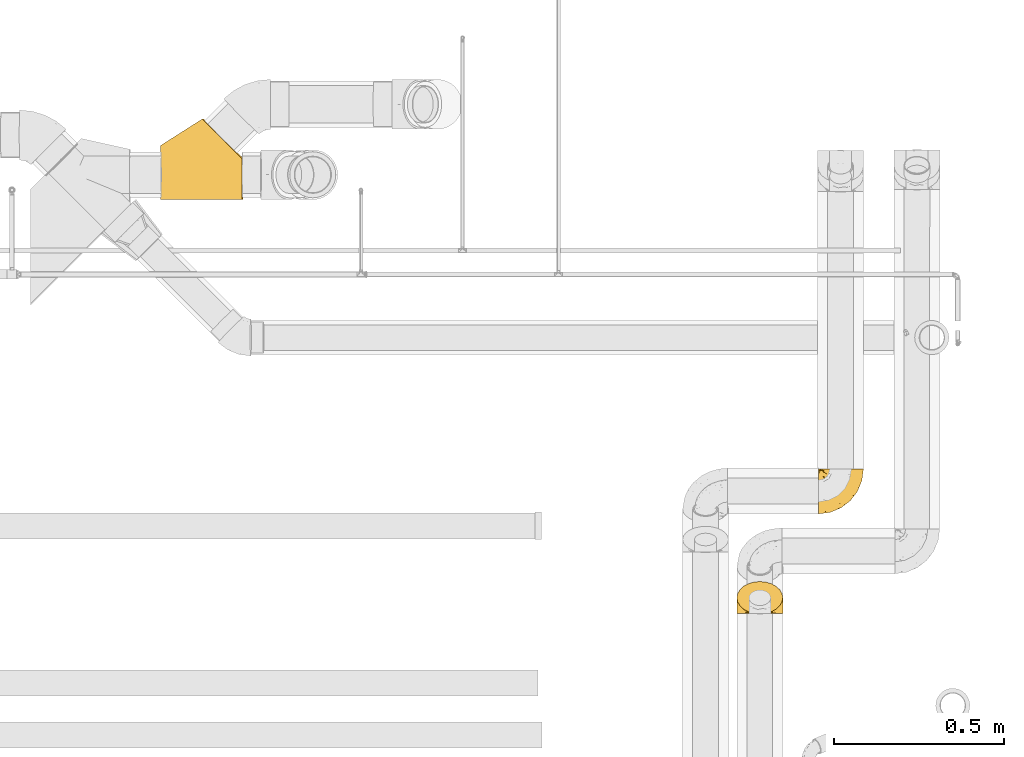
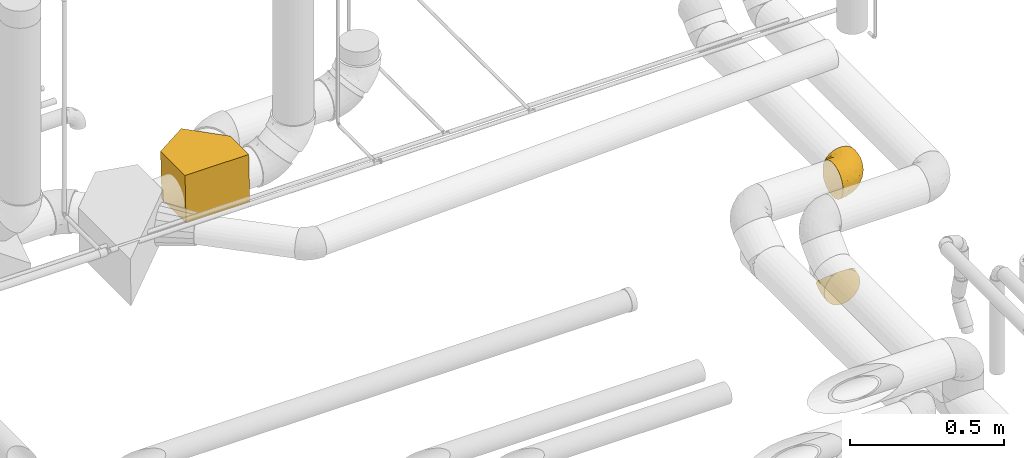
# One storey, part 22 of 156: 3 coverings.
"""IFC2X3 building model written with IfcOpenShell, lengths in millimetres."""

from ifc_helpers import new_model, entity, si_unit, converted_unit, derived_unit, direction, frame, origin_with_axes, place, context, subcontext, project, spatial, open_shell, surface_model, source, transform, mapped, element, save


model = new_model("IFC2X3")

# Units and contexts
model_context = context("Model", 3, precision=0.01, world=frame((0.0, 4.29681676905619e-09, 0.0)), true_north=direction((4.01073788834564e-13, 1.0)))
plan_context = context("Plan", 3, precision=0.01, world=frame((0.0, 4.29681676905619e-09, 0.0)), true_north=direction((4.01073788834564e-13, 1.0)))
body_context = subcontext(model_context, "Body", "Model", "MODEL_VIEW")
ifc_project = project(units=[converted_unit("PLANEANGLEUNIT", "DEGREE", entity("IfcPositiveLengthMeasure", 0.0174532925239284), si_unit("PLANEANGLEUNIT", "RADIAN"), dimensions=[0, 0, 0, 0, 0, 0, 0]), si_unit("AREAUNIT", "SQUARE_METRE"), si_unit("LENGTHUNIT", "METRE", prefix="MILLI"), si_unit("MASSUNIT", "GRAM", prefix="KILO"), si_unit("POWERUNIT", "WATT"), si_unit("PRESSUREUNIT", "PASCAL", prefix="KILO"), si_unit("FORCEUNIT", "NEWTON", prefix="KILO"), si_unit("ELECTRICVOLTAGEUNIT", "VOLT"), si_unit("ELECTRICCURRENTUNIT", "AMPERE"), si_unit("THERMODYNAMICTEMPERATUREUNIT", "DEGREE_CELSIUS"), si_unit("TIMEUNIT", "SECOND"), si_unit("VOLUMEUNIT", "CUBIC_METRE"), derived_unit("LINEARVELOCITYUNIT", [(si_unit("LENGTHUNIT", "METRE"), 1), (si_unit("TIMEUNIT", "SECOND"), -1)]), derived_unit("VOLUMETRICFLOWRATEUNIT", [(si_unit("VOLUMEUNIT", "CUBIC_METRE"), 1), (si_unit("TIMEUNIT", "SECOND"), -1)]), derived_unit("THERMALTRANSMITTANCEUNIT", [(si_unit("POWERUNIT", "WATT"), 1), (si_unit("THERMODYNAMICTEMPERATUREUNIT", "KELVIN"), -1), (si_unit("AREAUNIT", "SQUARE_METRE"), -1)]), derived_unit("SOUNDPRESSUREUNIT", [(si_unit("PRESSUREUNIT", "PASCAL"), 1)])], contexts=[model_context, plan_context])

# Site, building, storey
site_placement = place(None, frame((0.0, -4.29681676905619e-09, 0.0), z_axis=(0.0, 0.0, 1.0), x_axis=(1.0, 0.0, 0.0)))
site = spatial("IfcSite", under=ifc_project, at=site_placement, CompositionType="ELEMENT")
building_placement = place(site_placement, frame((0.0, 4.29681676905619e-09, 0.0), z_axis=(0.0, 0.0, 1.0), x_axis=(1.0, 0.0, 0.0)))
building = spatial("IfcBuilding", under=site, at=building_placement, Name="mc-building", CompositionType="ELEMENT")
storey_placement = place(building_placement, frame((0.0, 0.0, 205200.0), z_axis=(0.0, 0.0, 1.0), x_axis=(1.0, 0.0, 0.0)))
storey = spatial("IfcBuildingStorey", under=building, at=storey_placement, Name="Nivå D + 1,2 m", CompositionType="ELEMENT", Elevation=205200.0)

# Coverings
shared_shape_1 = source(origin_with_axes(), body_context, "Body", "SurfaceModel", [
    surface_model("IfcShellBasedSurfaceModel", [(-63.88561, -86.50476, 74.36082), (-63.88561, -86.50476, -116.50527), (58.72754, -164.45984, -113.73228), (58.72754, -164.45984, 77.13381), (175.48724, -47.6685, -111.59201), (175.48724, -47.6685, 79.27409), (175.48724, 72.86409, -111.9077), (175.48724, 73.364, 78.95708), (-63.88561, 73.35086, 73.94213), (-63.88561, 72.85095, -116.92266)], [open_shell([[[0, 1, 2]], [[2, 3, 0]], [[3, 2, 4]], [[4, 5, 3]], [[4, 6, 7]], [[7, 5, 4]], [[5, 7, 8]], [[5, 0, 3]], [[0, 5, 8]], [[1, 9, 4]], [[1, 4, 2]], [[4, 9, 6]], [[6, 9, 8]], [[8, 7, 6]], [[9, 1, 8]], [[0, 8, 1]]])]),
])
covering_1_placement = place(storey_placement, frame((328157.06183, 462607.66, 4222.67939999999), z_axis=(0.0209459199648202, 0.00261900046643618, -0.999777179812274), x_axis=(0.999780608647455, 0.0, 0.020945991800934)))
element("IfcCovering", 1, at=covering_1_placement, inside=storey, Name="BI17T - Cellegummi 13 mm SPV fett", PredefinedType="INSULATION", context=body_context, shape_type="MappedRepresentation", body=[
    mapped(shared_shape_1, transform((0.0, 0.0, 0.0), scale=1.0)),
])
shared_shape_2 = source(origin_with_axes(), body_context, "Body", "SurfaceModel", [
    surface_model("IfcShellBasedSurfaceModel", [(-26.92388, 64.81475, -18.84935), (-26.92388, 57.87557, -34.73714), (-26.92388, 47.11836, -48.33333), (-26.92388, 33.25277, -58.74099), (-26.92388, 17.19351, -65.27353), (-26.92388, 57.87557, 34.73714), (-26.92388, 33.25277, 58.74099), (-26.92388, 47.11836, 48.33333), (-26.92388, 64.81475, 18.84935), (-26.92388, 0.0, 67.5), (-26.92388, 17.19351, 65.27353), (-26.92388, 0.0, -67.5), (-26.92388, -17.47029, -65.19999), (-26.92388, -17.47029, 65.19999), (-26.92388, -58.45672, -33.75), (-26.92388, -33.75, -58.45672), (-26.92388, -33.75, 58.45672), (-26.92388, -47.72971, -47.72971), (-26.92388, -67.5, 0.0), (-26.92388, -65.19999, -17.47029), (-26.92388, -58.45672, 33.75), (-26.92388, -47.72971, 47.72971), (-26.92388, -65.19999, 17.47029), (-14.27965, 52.35577, -48.33333), (-21.88615, 59.96226, -34.73714), (-21.88615, 59.96226, 34.73714), (19.03806, 19.03806, -67.5), (6.88041, 31.19571, -65.27353), (-4.4752, 42.55132, -58.74099), (-4.4752, 42.55132, 58.74099), (31.39142, 6.6847, -65.19999), (-26.79289, 64.86901, 18.84935), (-26.83126, 64.90738, -18.84935), (-14.27965, 52.35577, 48.33333), (6.88041, 31.19571, 65.27353), (42.90291, -4.82679, -58.45672), (60.3732, -22.29708, -33.75), (52.78806, -14.71194, -47.72971), (66.76777, -28.69165, 0.0), (65.14142, -27.0653, -17.47029), (19.03806, 19.03806, 67.5), (31.39142, 6.6847, 65.19999), (42.90291, -4.82679, 58.45672), (60.3732, -22.29708, 33.75), (52.78806, -14.71194, 47.72971), (65.14142, -27.0653, 17.47029), (-17.24708, 26.63533, -62.52499), (-20.86956, 54.56437, -41.88204), (-26.88225, 60.09848, -29.68711), (-26.84061, 62.32138, -24.63708), (10.95362, 13.63621, -67.5), (-2.88083, 18.40375, -66.31994), (-12.63723, 13.703, -66.46933), (-17.38764, 1.89688, -67.5), (-17.55621, 42.38444, -53.98417), (-7.0687, 30.77632, -62.52499), (-12.89743, 44.93821, -53.98417), (-23.16554, 51.91787, -43.76586), (-2.04946, 4.94783, -67.5), (-22.65626, 40.89597, -53.98417), (-26.79289, 64.86901, -18.84935), (18.44376, -44.52716, -41.0914), (-1.14578, -37.91197, -53.55135), (26.12182, -26.87784, -53.55135), (-4.43545, -9.52295, -66.2671), (13.59116, -2.12316, -66.156), (5.99678, -19.65533, -62.36187), (-3.82332, -60.24939, -25.83113), (-3.79342, -53.48444, -38.09739), (-14.67022, 2.4374, -67.5), (-2.15176, -63.92927, -12.73631), (22.51741, -54.36183, -20.85864), (24.52968, -11.62224, -61.73502), (8.4943, 11.99295, -67.5), (40.50156, -35.13685, -38.09739), (-11.40858, -21.90434, -63.359), (39.32612, -49.74837, 0.0), (7.36964, -62.98517, 0.0), (45.30625, -39.89926, -25.83113), (46.72634, -43.6833, -12.73631), (-3.79342, -53.48444, 38.09739), (-3.82332, -60.24939, 25.83113), (18.44376, -44.52716, 41.0914), (-2.15176, -63.92927, 12.73631), (22.51741, -54.36183, 20.85864), (-11.40858, -21.90434, 63.359), (-1.14578, -37.91197, 53.55135), (5.99678, -19.65533, 62.36187), (26.12182, -26.87784, 53.55135), (-4.43545, -9.52295, 66.2671), (24.52968, -11.62224, 61.73502), (13.59116, -2.12316, 66.156), (45.30625, -39.89926, 25.83113), (40.50156, -35.13685, 38.09739), (46.72634, -43.6833, 12.73631), (-14.67022, 2.4374, 67.5), (8.4943, 11.99295, 67.5), (-2.04946, 4.94783, 67.5), (-16.76382, 26.76047, 62.52499), (-17.55621, 42.38445, 53.98417), (-22.65626, 40.89597, 53.98417), (-6.63849, 31.02955, 62.52499), (-12.89743, 44.93821, 53.98417), (-25.0887, 63.04705, 24.63708), (-23.82583, 53.33984, 41.88204), (-20.33097, 53.09199, 43.76586), (-17.38764, 1.89688, 67.5), (-10.97637, 15.05047, 66.31994), (-0.75362, 18.62536, 66.46933), (10.95362, 13.63621, 67.5), (-23.48742, 61.50466, 29.68711)], [open_shell([[[0, 1, 2]], [[2, 3, 4]], [[0, 2, 5]], [[6, 2, 4]], [[5, 6, 7]], [[5, 8, 0]], [[6, 9, 10]], [[6, 5, 2]], [[9, 6, 4]], [[4, 11, 9]], [[12, 13, 11]], [[14, 12, 15]], [[16, 12, 14]], [[14, 15, 17]], [[18, 14, 19]], [[16, 20, 21]], [[16, 13, 12]], [[20, 18, 22]], [[20, 16, 14]], [[18, 20, 14]], [[11, 13, 9]], [[23, 24, 25]], [[26, 27, 28]], [[23, 26, 28]], [[23, 29, 30]], [[31, 25, 24]], [[24, 32, 31]], [[33, 29, 25]], [[29, 23, 25]], [[30, 29, 34]], [[26, 23, 30]], [[35, 30, 36]], [[37, 35, 36]], [[38, 39, 36]], [[34, 40, 36]], [[38, 36, 40]], [[41, 42, 40]], [[43, 40, 42]], [[44, 43, 42]], [[43, 38, 40]], [[43, 45, 38]], [[30, 34, 36]], [[46, 4, 3]], [[47, 48, 49]], [[27, 26, 50]], [[27, 50, 51]], [[52, 4, 46]], [[53, 11, 4]], [[54, 55, 46]], [[23, 28, 56]], [[1, 48, 57]], [[53, 52, 58]], [[47, 54, 57]], [[49, 24, 47]], [[48, 47, 57]], [[59, 3, 2]], [[51, 58, 52]], [[49, 60, 24]], [[56, 47, 23]], [[55, 54, 56]], [[52, 46, 51]], [[47, 24, 23]], [[46, 3, 59]], [[28, 27, 55]], [[4, 52, 53]], [[51, 46, 55]], [[27, 51, 55]], [[50, 58, 51]], [[59, 57, 54]], [[1, 57, 2]], [[57, 59, 2]], [[46, 59, 54]], [[55, 56, 28]], [[47, 56, 54]], [[61, 62, 63]], [[17, 15, 62]], [[64, 65, 66]], [[61, 67, 68]], [[64, 12, 69]], [[61, 68, 62]], [[19, 70, 18]], [[67, 70, 19]], [[67, 61, 71]], [[67, 19, 14]], [[62, 66, 63]], [[72, 63, 66]], [[58, 64, 69]], [[65, 73, 26]], [[63, 37, 74]], [[65, 72, 66]], [[65, 64, 58]], [[65, 26, 30]], [[64, 66, 75]], [[62, 15, 75]], [[76, 77, 71]], [[78, 79, 71]], [[63, 35, 37]], [[74, 78, 61]], [[38, 76, 79]], [[78, 74, 36]], [[78, 36, 39]], [[12, 11, 69]], [[62, 75, 66]], [[64, 75, 12]], [[15, 12, 75]], [[30, 35, 72]], [[67, 14, 68]], [[70, 71, 77]], [[14, 17, 68]], [[62, 68, 17]], [[71, 70, 67]], [[18, 70, 77]], [[79, 78, 39]], [[61, 78, 71]], [[63, 74, 61]], [[37, 36, 74]], [[38, 79, 39]], [[71, 79, 76]], [[30, 72, 65]], [[63, 72, 35]], [[65, 58, 73]], [[80, 81, 82]], [[18, 77, 83]], [[20, 81, 80]], [[84, 81, 83]], [[85, 86, 87]], [[44, 42, 88]], [[87, 89, 85]], [[87, 90, 91]], [[86, 82, 88]], [[90, 41, 91]], [[86, 21, 80]], [[13, 85, 89]], [[77, 76, 84]], [[86, 85, 16]], [[82, 92, 93]], [[82, 84, 92]], [[20, 22, 81]], [[45, 94, 38]], [[95, 9, 13]], [[92, 94, 45]], [[13, 89, 95]], [[82, 93, 88]], [[91, 40, 96]], [[90, 88, 42]], [[95, 89, 97]], [[89, 91, 97]], [[16, 21, 86]], [[87, 86, 88]], [[92, 45, 43]], [[13, 16, 85]], [[87, 91, 89]], [[92, 43, 93]], [[94, 84, 76]], [[43, 44, 93]], [[88, 93, 44]], [[84, 94, 92]], [[38, 94, 76]], [[83, 81, 22]], [[82, 81, 84]], [[86, 80, 82]], [[21, 20, 80]], [[18, 83, 22]], [[84, 83, 77]], [[88, 90, 87]], [[41, 90, 42]], [[40, 91, 41]], [[96, 97, 91]], [[98, 99, 100]], [[101, 29, 102]], [[103, 5, 104]], [[6, 10, 98]], [[104, 99, 105]], [[106, 107, 10]], [[108, 34, 101]], [[8, 5, 103]], [[10, 9, 106]], [[108, 101, 107]], [[97, 109, 108]], [[7, 104, 5]], [[40, 34, 109]], [[99, 98, 101]], [[105, 25, 110]], [[104, 110, 103]], [[29, 33, 102]], [[6, 100, 7]], [[107, 97, 108]], [[101, 34, 29]], [[110, 104, 105]], [[104, 7, 100]], [[34, 108, 109]], [[107, 101, 98]], [[10, 107, 98]], [[106, 97, 107]], [[102, 105, 99]], [[25, 105, 33]], [[98, 100, 6]], [[104, 100, 99]], [[105, 102, 33]], [[101, 102, 99]]])]),
])
covering_2_placement = place(storey_placement, frame((329857.42979, 461341.64697, 4015.75618999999), z_axis=(1.0, 0.0, 0.0), x_axis=(0.0, 1.0, 0.0)))
element("IfcCovering", 2, at=covering_2_placement, inside=storey, Name="BI10T - Cellegummi 18-32 mm kalde rør", PredefinedType="INSULATION", context=body_context, shape_type="MappedRepresentation", body=[
    mapped(shared_shape_2, transform((0.0, 0.0, 0.0), scale=1.0)),
])
shared_shape_3 = source(origin_with_axes(), body_context, "Body", "SurfaceModel", [
    surface_model("IfcShellBasedSurfaceModel", [(25.85448, 64.9766, 62.35913), (0.01674, 64.98325, 67.5), (13.18994, 64.97986, 66.20209), (62.38031, 64.96719, 25.82703), (37.52428, 64.97359, 56.11983), (-64.79801, 64.99995, -18.84935), (-14.35727, 64.98696, 65.95178), (56.14429, 64.96879, 37.49598), (47.75164, 64.97095, 47.72452), (-51.0718, 64.99641, 44.11588), (-28.07476, 64.99049, 61.37685), (-40.50306, 64.99369, 53.98514), (-64.79801, 64.99995, 18.84935), (-59.29592, 64.99854, 32.22201), (66.22034, 64.9662, 13.1656), (37.51272, 64.97359, -56.12755), (67.51674, 64.96586, 0.0), (66.21883, 64.9662, -13.1732), (62.37587, 64.96719, -25.83774), (56.13656, 64.9688, -37.50754), (47.74126, 64.97096, -47.7349), (25.84377, 64.9766, -62.36357), (13.18234, 64.97986, -66.2036), (-40.50564, 64.99369, -53.98321), (-51.07389, 64.99641, -44.11345), (-59.29744, 64.99854, -32.21921), (-28.07768, 64.99049, -61.37551), (0.01674, 64.98325, -67.5), (-14.36038, 64.98696, -65.95111), (-64.98326, 64.81475, -18.84935), (-64.98326, 57.87557, -34.73714), (-64.98326, 47.11836, -48.33333), (-64.98326, 33.25277, -58.74099), (-64.98326, 17.19351, -65.27353), (-64.98326, 64.81475, 18.84935), (-64.98326, -33.75, 58.45672), (-64.98326, 57.87557, 34.73714), (-64.98326, 33.25277, 58.74099), (-64.98326, 47.11836, 48.33333), (-64.98326, 0.0, 67.5), (-64.98326, 17.19351, 65.27353), (-64.98326, 0.0, -67.5), (-64.98326, -17.47029, -65.19999), (-64.98326, -67.5, 0.0), (-64.98326, -58.45672, -33.75), (-64.98326, -33.75, -58.45672), (-64.98326, -47.72971, -47.72971), (-64.98326, -65.19999, -17.47029), (-64.98326, -47.72971, 47.72971), (-64.98326, -17.47029, 65.19999), (-64.98326, -58.45672, 33.75), (-64.98326, -65.19999, 17.47029), (-64.85228, 64.86899, 18.84935), (-64.85228, 64.86899, -18.84935), (-62.33654, 53.22919, -41.88204), (-63.76755, 60.63441, -29.99724), (-59.44298, 54.28261, -41.88204), (-51.68278, 42.7975, -55.00905), (-58.90961, 41.28656, -53.98417), (-64.95814, 64.82515, -18.84935), (-60.97919, 60.00304, -33.50635), (-62.81781, 60.7686, -30.43986), (-64.88502, 64.85543, -18.84935), (-50.85024, 28.04399, -62.52499), (-57.90798, 24.04969, -63.29832), (-50.88686, 14.3798, -66.3412), (-37.07095, 31.3901, -64.04755), (-29.56997, 11.98918, -67.5), (-40.35181, 19.79985, -66.13129), (-55.44693, 1.89657, -67.5), (-54.17701, 53.04083, -46.54912), (-23.47451, 51.52443, -64.03169), (-35.41694, 58.50911, -57.88011), (-1.88229, 55.44742, -67.5), (-19.02724, 19.03214, -67.5), (-28.83965, 40.49359, -64.04069), (-45.93489, 58.14957, -50.52759), (-64.81882, 64.94974, -18.84935), (-43.54429, 44.96453, -57.31382), (-4.93589, 40.11397, -67.5), (-64.83555, 64.90936, -18.84935), (-55.93902, 62.16497, -38.38718), (-59.33703, 60.73115, -34.66023), (-37.16706, 51.38517, -58.29382), (-49.03578, 54.80375, -49.33215), (-11.98156, 29.57306, -67.5), (-64.91777, 64.84187, -18.84935), (-40.1127, 4.94623, -67.5), (-52.72949, 2.43702, -67.5), (-42.49696, -9.52455, -66.26693), (62.99455, 30.679, 0.0), (60.35695, 32.07806, -19.59988), (7.28785, 26.67311, -65.37462), (17.52771, 46.35823, -64.59456), (25.45864, 30.45522, -59.53215), (-9.84716, -24.12394, -54.51789), (-12.16826, -41.1367, -41.0914), (-38.24889, -37.6677, -53.55135), (-32.0629, -19.65545, -62.36187), (-8.9968, -1.19123, -63.91903), (38.40153, 36.71015, -52.69378), (30.44657, 48.68349, -59.53215), (28.69632, -28.70372, 0.0), (1.25689, -49.75405, 0.0), (13.27976, -37.01703, -22.67054), (38.50836, -14.43662, -16.4559), (49.75373, -1.26971, 0.0), (-26.33052, -2.34004, -66.30505), (-28.9873, -57.16929, -25.83113), (-40.00189, -50.8894, -41.0914), (-40.22676, -63.93372, -12.72892), (-49.46873, -21.90648, -63.35827), (18.34926, -3.411, -52.18245), (35.49386, 13.4379, -47.52359), (28.03574, -10.91404, -39.04043), (-2.45958, 52.54861, -67.5), (13.32085, 11.04436, -60.42053), (48.34614, 35.23342, -42.82742), (55.59133, 33.87738, -31.82524), (47.19933, 10.94606, -31.82591), (10.54868, -30.75883, -36.21512), (2.00737, -27.23572, -46.4285), (-14.74489, -56.30825, -12.67332), (-7.00982, -49.35927, -23.66802), (51.32853, 7.64621, -19.29391), (-30.69523, -62.98664, 0.0), (0.2582, 12.30708, -64.8108), (3.67414, -5.474, -58.66358), (36.97829, -9.4056, -28.42436), (48.53721, 33.93666, 42.18549), (51.35165, 20.56524, 31.81466), (57.76758, 44.01217, 31.81466), (-28.32649, -60.77149, 14.12987), (-16.24651, -52.66807, 25.83113), (-42.8686, -60.42722, 25.83113), (37.5141, -13.67346, 20.81653), (22.24485, 22.97009, 59.52614), (16.84114, 43.50795, 64.59175), (5.27757, 25.293, 65.64766), (35.12788, 13.62571, 47.93494), (15.62124, -0.7824, 55.06446), (25.5884, -9.35389, 42.81638), (14.50133, -38.60936, 15.96022), (-5.83758, -51.69221, 14.94216), (39.03937, -2.40485, 32.87706), (-2.1237, -36.32286, 40.18102), (-17.71921, -29.98154, 53.55135), (-34.30073, -49.51203, 41.0914), (-42.6437, -9.03825, 66.36336), (-39.31189, -22.12792, 62.36187), (-52.72949, 2.43702, 67.5), (18.51757, -28.29201, 30.52623), (-42.62747, -38.70922, 53.55135), (-27.56715, -2.43982, 66.40227), (-40.1127, 4.94623, 67.5), (61.42522, 36.44043, 19.59063), (52.44709, 9.83353, 19.0946), (39.30678, 37.60765, 52.17338), (28.76919, 40.80069, 59.5265), (-0.80433, -10.87887, 58.08797), (-25.0564, -14.25166, 63.18711), (-6.08354, 12.62006, 66.06978), (-29.56997, 11.98918, 67.5), (-2.45958, 52.54861, 67.5), (-4.93589, 40.11397, 67.5), (8.13498, 9.84097, 62.04194), (4.60766, -20.55033, 50.05937), (-11.98156, 29.57306, 67.5), (-19.02724, 19.03214, 67.5), (-12.11398, -4.71592, 63.64119), (-55.44693, 1.89657, 67.5), (-51.2935, 50.10346, 50.51769), (-58.8128, 56.0581, 40.31837), (-53.06174, 43.62024, 53.98417), (-61.3806, 53.48574, 41.88204), (-59.31559, 41.18626, 53.98417), (-38.66329, 30.21392, 64.02498), (-40.79238, 18.77731, 66.26951), (-53.16834, 27.23896, 62.52499), (-62.3794, 61.71356, 29.30446), (-62.70507, 60.34462, 31.27568), (-24.35069, 37.38194, 65.60789), (-55.86058, 57.845, 41.27993), (-48.32219, 52.868, 50.85064), (-52.14496, 58.32932, 44.75216), (-50.70764, 13.73624, 66.46314), (-63.70933, 60.14745, 30.95623), (-23.36497, 51.85655, 64.03271), (-1.88229, 55.44742, 67.5), (-38.96116, 49.09886, 58.01476), (-36.15534, 55.05278, 58.01476), (-61.47822, 62.05345, 30.09245), (-64.83555, 64.90936, 18.84935), (-46.9313, 59.29902, 49.33434), (-64.81882, 64.94974, 18.84935), (-57.7487, 62.98327, 35.37223), (-59.85522, 62.16901, 32.53344), (-45.4587, 40.87558, 58.33229), (-64.89266, 64.85227, 18.84935), (-64.93303, 64.83555, 18.84935)], [open_shell([[[0, 1, 2]], [[3, 0, 4]], [[0, 5, 6]], [[7, 3, 4]], [[8, 7, 4]], [[5, 0, 3]], [[6, 9, 10]], [[6, 1, 0]], [[11, 10, 9]], [[12, 13, 9]], [[9, 5, 12]], [[9, 6, 5]], [[3, 14, 5]], [[15, 16, 17]], [[15, 17, 18]], [[19, 20, 15]], [[21, 16, 15]], [[15, 18, 19]], [[16, 21, 22]], [[23, 24, 5]], [[25, 5, 24]], [[23, 5, 26]], [[27, 28, 5]], [[26, 5, 28]], [[5, 22, 27]], [[5, 16, 22]], [[16, 5, 14]], [[29, 30, 31]], [[31, 32, 33]], [[29, 31, 34]], [[31, 35, 36]], [[36, 37, 38]], [[36, 34, 31]], [[37, 39, 40]], [[35, 39, 37]], [[37, 36, 35]], [[31, 33, 41]], [[42, 43, 31]], [[44, 42, 45]], [[42, 44, 43]], [[44, 45, 46]], [[47, 43, 44]], [[35, 43, 48]], [[49, 39, 35]], [[50, 43, 51]], [[43, 50, 48]], [[43, 35, 31]], [[42, 31, 41]], [[29, 34, 52]], [[53, 29, 52]], [[12, 5, 52]], [[53, 52, 5]], [[54, 55, 56]], [[57, 58, 56]], [[30, 29, 59]], [[54, 58, 31]], [[60, 61, 62]], [[58, 63, 64]], [[33, 64, 65]], [[66, 67, 68]], [[65, 64, 63]], [[33, 65, 69]], [[56, 70, 57]], [[26, 71, 72]], [[30, 54, 31]], [[28, 27, 73]], [[74, 66, 75]], [[76, 23, 72]], [[23, 76, 24]], [[58, 32, 31]], [[58, 57, 63]], [[77, 5, 25]], [[60, 70, 56]], [[66, 78, 75]], [[79, 71, 73]], [[80, 81, 82]], [[25, 81, 77]], [[28, 73, 71]], [[28, 71, 26]], [[65, 63, 68]], [[71, 83, 72]], [[25, 24, 81]], [[82, 84, 70]], [[57, 66, 63]], [[78, 57, 70]], [[83, 78, 84]], [[59, 55, 30]], [[58, 54, 56]], [[70, 60, 82]], [[78, 70, 84]], [[80, 77, 81]], [[81, 84, 82]], [[75, 83, 71]], [[57, 78, 66]], [[75, 79, 85]], [[55, 59, 86]], [[69, 65, 87]], [[69, 41, 33]], [[68, 63, 66]], [[82, 53, 80]], [[87, 65, 68]], [[61, 56, 55]], [[53, 82, 60]], [[78, 83, 75]], [[76, 72, 83]], [[83, 84, 76]], [[26, 72, 23]], [[84, 81, 76]], [[24, 76, 81]], [[55, 86, 61]], [[30, 55, 54]], [[62, 53, 60]], [[60, 56, 61]], [[61, 86, 62]], [[33, 32, 64]], [[58, 64, 32]], [[67, 66, 74]], [[67, 87, 68]], [[79, 75, 71]], [[85, 74, 75]], [[88, 89, 42]], [[88, 87, 89]], [[17, 90, 91]], [[92, 93, 94]], [[95, 96, 97]], [[95, 98, 99]], [[100, 94, 101]], [[102, 103, 104]], [[102, 105, 106]], [[21, 93, 22]], [[74, 99, 107]], [[18, 17, 91]], [[108, 44, 109]], [[47, 110, 43]], [[105, 102, 104]], [[44, 108, 47]], [[44, 46, 109]], [[45, 97, 46]], [[111, 97, 45]], [[112, 113, 114]], [[115, 27, 22]], [[94, 113, 116]], [[20, 19, 117]], [[100, 20, 117]], [[42, 89, 111]], [[118, 91, 119]], [[101, 93, 21]], [[22, 93, 115]], [[120, 96, 121]], [[122, 110, 108]], [[104, 103, 122]], [[123, 96, 120]], [[106, 105, 124]], [[122, 103, 125]], [[100, 113, 94]], [[124, 90, 106]], [[118, 19, 18]], [[126, 127, 99]], [[17, 16, 90]], [[117, 118, 119]], [[112, 116, 113]], [[92, 79, 93]], [[95, 97, 98]], [[15, 101, 21]], [[109, 97, 96]], [[126, 85, 92]], [[104, 120, 128]], [[91, 124, 119]], [[107, 98, 89]], [[121, 114, 120]], [[92, 116, 126]], [[116, 92, 94]], [[15, 20, 100]], [[93, 101, 94]], [[100, 101, 15]], [[100, 117, 113]], [[117, 119, 113]], [[114, 113, 119]], [[128, 114, 119]], [[114, 128, 120]], [[97, 109, 46]], [[108, 109, 96]], [[42, 41, 88]], [[107, 89, 87]], [[89, 98, 111]], [[107, 87, 67]], [[98, 107, 99]], [[97, 111, 98]], [[45, 42, 111]], [[127, 116, 112]], [[116, 127, 126]], [[110, 122, 125]], [[123, 122, 108]], [[43, 110, 125]], [[108, 110, 47]], [[121, 127, 112]], [[74, 107, 67]], [[95, 99, 127]], [[99, 74, 126]], [[124, 91, 90]], [[96, 123, 108]], [[104, 122, 123]], [[19, 118, 117]], [[18, 91, 118]], [[93, 79, 115]], [[85, 126, 74]], [[85, 79, 92]], [[128, 124, 105]], [[124, 128, 119]], [[104, 128, 105]], [[123, 120, 104]], [[121, 96, 95]], [[127, 121, 95]], [[114, 121, 112]], [[129, 130, 131]], [[43, 125, 132]], [[133, 134, 132]], [[106, 135, 102]], [[136, 137, 138]], [[139, 140, 141]], [[102, 142, 103]], [[143, 142, 133]], [[141, 144, 139]], [[145, 146, 147]], [[148, 49, 149]], [[49, 148, 150]], [[151, 142, 135]], [[152, 149, 35]], [[35, 48, 152]], [[153, 154, 148]], [[139, 144, 130]], [[50, 134, 147]], [[35, 149, 49]], [[102, 135, 142]], [[155, 130, 156]], [[152, 147, 146]], [[129, 8, 157]], [[144, 135, 156]], [[14, 3, 155]], [[8, 4, 157]], [[137, 0, 2]], [[155, 3, 131]], [[16, 14, 90]], [[158, 4, 0]], [[159, 160, 146]], [[50, 147, 48]], [[161, 162, 153]], [[137, 136, 158]], [[50, 51, 134]], [[139, 130, 129]], [[2, 163, 137]], [[156, 90, 155]], [[138, 137, 164]], [[158, 136, 157]], [[90, 14, 155]], [[144, 156, 130]], [[140, 136, 165]], [[7, 131, 3]], [[145, 147, 133]], [[146, 145, 166]], [[151, 141, 145]], [[143, 133, 132]], [[151, 133, 142]], [[166, 141, 140]], [[7, 8, 129]], [[155, 131, 130]], [[129, 131, 7]], [[129, 157, 139]], [[157, 136, 139]], [[140, 139, 136]], [[165, 136, 138]], [[159, 146, 166]], [[161, 167, 168]], [[138, 161, 165]], [[147, 152, 48]], [[149, 152, 146]], [[150, 148, 154]], [[150, 39, 49]], [[153, 160, 169]], [[160, 148, 149]], [[153, 169, 161]], [[135, 106, 156]], [[162, 154, 153]], [[90, 156, 106]], [[151, 135, 144]], [[133, 151, 145]], [[148, 160, 153]], [[146, 160, 149]], [[51, 43, 132]], [[147, 134, 133]], [[51, 132, 134]], [[143, 125, 103]], [[125, 143, 132]], [[103, 142, 143]], [[167, 161, 138]], [[159, 165, 169]], [[161, 168, 162]], [[169, 165, 161]], [[141, 166, 145]], [[159, 166, 140]], [[165, 159, 140]], [[159, 169, 160]], [[4, 158, 157]], [[0, 137, 158]], [[163, 2, 1]], [[163, 164, 137]], [[151, 144, 141]], [[138, 164, 167]], [[40, 39, 170]], [[171, 172, 173]], [[173, 174, 175]], [[175, 38, 37]], [[176, 177, 162]], [[176, 173, 178]], [[172, 179, 180]], [[181, 176, 168]], [[175, 37, 178]], [[182, 183, 184]], [[172, 174, 173]], [[174, 36, 38]], [[178, 185, 177]], [[186, 174, 180]], [[187, 188, 6]], [[189, 184, 183]], [[10, 11, 190]], [[52, 191, 192]], [[181, 187, 189]], [[190, 11, 193]], [[13, 12, 194]], [[187, 181, 164]], [[37, 40, 178]], [[195, 9, 13]], [[6, 188, 1]], [[193, 11, 9]], [[171, 182, 172]], [[189, 187, 190]], [[191, 182, 196]], [[10, 187, 6]], [[185, 170, 154]], [[34, 36, 186]], [[189, 183, 197]], [[173, 175, 178]], [[164, 188, 187]], [[174, 38, 175]], [[181, 189, 197]], [[181, 168, 167]], [[52, 179, 191]], [[179, 182, 191]], [[177, 185, 154]], [[170, 185, 40]], [[40, 185, 178]], [[162, 168, 176]], [[178, 177, 176]], [[177, 154, 162]], [[197, 171, 173]], [[183, 182, 171]], [[173, 176, 197]], [[197, 176, 181]], [[197, 183, 171]], [[184, 189, 193]], [[195, 184, 193]], [[196, 194, 192]], [[9, 195, 193]], [[13, 194, 195]], [[182, 184, 196]], [[184, 195, 196]], [[194, 196, 195]], [[192, 191, 196]], [[179, 172, 182]], [[52, 198, 179]], [[199, 186, 180]], [[180, 179, 198]], [[199, 180, 198]], [[174, 172, 180]], [[34, 186, 199]], [[36, 174, 186]], [[190, 187, 10]], [[193, 189, 190]], [[164, 181, 167]]])]),
])
covering_3_placement = place(storey_placement, frame((330095.24229, 461675.28932, 4163.33854999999), z_axis=(0.0, 0.0, 1.0), x_axis=(1.0, 0.0, 0.0)))
element("IfcCovering", 3, at=covering_3_placement, inside=storey, Name="BI10T - Cellegummi 18-32 mm kalde rør", PredefinedType="INSULATION", context=body_context, shape_type="MappedRepresentation", body=[
    mapped(shared_shape_3, transform((0.0, 0.0, 0.0), scale=1.0)),
])

save(model, "model.ifc")
